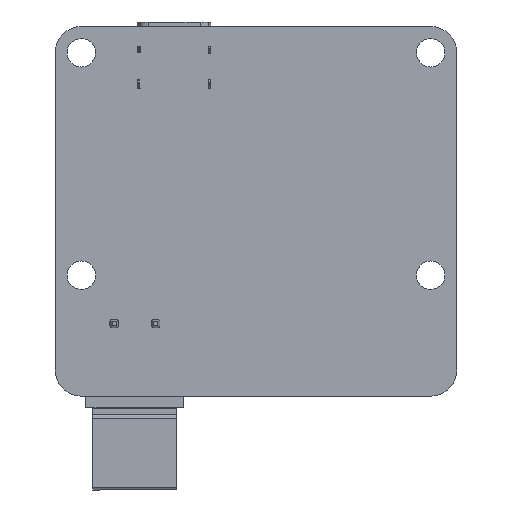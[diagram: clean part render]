
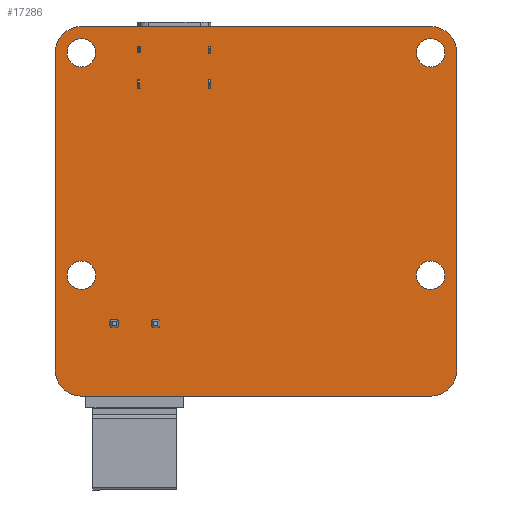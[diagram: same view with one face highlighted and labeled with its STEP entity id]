
A CAD part, front view. The second image highlights one B-rep face of the part: STEP entity #17286.
In plain terms, the highlighted planar face has unit normal (0, -1, 0).
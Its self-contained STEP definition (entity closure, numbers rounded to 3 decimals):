
#582=FACE_BOUND('',#3087,.T.);
#583=FACE_BOUND('',#3088,.T.);
#584=FACE_BOUND('',#3089,.T.);
#585=FACE_BOUND('',#3090,.T.);
#1232=PLANE('',#18767);
#2128=FACE_OUTER_BOUND('',#3086,.T.);
#3086=EDGE_LOOP('',(#16167,#16168,#16169,#16170,#16171,#16172,#16173,#16174));
#3087=EDGE_LOOP('',(#16175));
#3088=EDGE_LOOP('',(#16176));
#3089=EDGE_LOOP('',(#16177));
#3090=EDGE_LOOP('',(#16178));
#4958=LINE('',#28691,#6841);
#4963=LINE('',#28705,#6846);
#4967=LINE('',#28717,#6850);
#4971=LINE('',#28729,#6854);
#6841=VECTOR('',#23466,10.);
#6846=VECTOR('',#23479,10.);
#6850=VECTOR('',#23491,10.);
#6854=VECTOR('',#23503,10.);
#7335=CIRCLE('',#18743,1.74);
#7336=CIRCLE('',#18745,1.74);
#7337=CIRCLE('',#18747,1.74);
#7338=CIRCLE('',#18749,1.74);
#7339=CIRCLE('',#18752,3.2);
#7341=CIRCLE('',#18756,3.2);
#7343=CIRCLE('',#18760,3.2);
#7345=CIRCLE('',#18764,3.2);
#8908=VERTEX_POINT('',#28673);
#8909=VERTEX_POINT('',#28677);
#8910=VERTEX_POINT('',#28681);
#8911=VERTEX_POINT('',#28685);
#8912=VERTEX_POINT('',#28689);
#8913=VERTEX_POINT('',#28690);
#8916=VERTEX_POINT('',#28698);
#8918=VERTEX_POINT('',#28704);
#8920=VERTEX_POINT('',#28710);
#8922=VERTEX_POINT('',#28716);
#8924=VERTEX_POINT('',#28722);
#8926=VERTEX_POINT('',#28728);
#11314=EDGE_CURVE('',#8908,#8908,#7335,.T.);
#11316=EDGE_CURVE('',#8909,#8909,#7336,.T.);
#11318=EDGE_CURVE('',#8910,#8910,#7337,.T.);
#11320=EDGE_CURVE('',#8911,#8911,#7338,.T.);
#11321=EDGE_CURVE('',#8912,#8913,#4958,.T.);
#11325=EDGE_CURVE('',#8916,#8913,#7339,.T.);
#11328=EDGE_CURVE('',#8916,#8918,#4963,.T.);
#11331=EDGE_CURVE('',#8920,#8918,#7341,.T.);
#11334=EDGE_CURVE('',#8920,#8922,#4967,.T.);
#11337=EDGE_CURVE('',#8924,#8922,#7343,.T.);
#11340=EDGE_CURVE('',#8924,#8926,#4971,.T.);
#11343=EDGE_CURVE('',#8912,#8926,#7345,.T.);
#16167=ORIENTED_EDGE('',*,*,#11343,.F.);
#16168=ORIENTED_EDGE('',*,*,#11321,.T.);
#16169=ORIENTED_EDGE('',*,*,#11325,.F.);
#16170=ORIENTED_EDGE('',*,*,#11328,.T.);
#16171=ORIENTED_EDGE('',*,*,#11331,.F.);
#16172=ORIENTED_EDGE('',*,*,#11334,.T.);
#16173=ORIENTED_EDGE('',*,*,#11337,.F.);
#16174=ORIENTED_EDGE('',*,*,#11340,.T.);
#16175=ORIENTED_EDGE('',*,*,#11320,.F.);
#16176=ORIENTED_EDGE('',*,*,#11318,.F.);
#16177=ORIENTED_EDGE('',*,*,#11316,.F.);
#16178=ORIENTED_EDGE('',*,*,#11314,.F.);
#17286=ADVANCED_FACE('',(#2128,#582,#583,#584,#585),#1232,.F.);
#18743=AXIS2_PLACEMENT_3D('',#28675,#23447,#23448);
#18745=AXIS2_PLACEMENT_3D('',#28679,#23452,#23453);
#18747=AXIS2_PLACEMENT_3D('',#28683,#23457,#23458);
#18749=AXIS2_PLACEMENT_3D('',#28687,#23462,#23463);
#18752=AXIS2_PLACEMENT_3D('',#28699,#23472,#23473);
#18756=AXIS2_PLACEMENT_3D('',#28711,#23484,#23485);
#18760=AXIS2_PLACEMENT_3D('',#28723,#23496,#23497);
#18764=AXIS2_PLACEMENT_3D('',#28734,#23508,#23509);
#18767=AXIS2_PLACEMENT_3D('',#28737,#23514,#23515);
#23447=DIRECTION('center_axis',(0.,-1.,0.));
#23448=DIRECTION('ref_axis',(1.,0.,0.));
#23452=DIRECTION('center_axis',(0.,-1.,0.));
#23453=DIRECTION('ref_axis',(1.,0.,0.));
#23457=DIRECTION('center_axis',(0.,-1.,0.));
#23458=DIRECTION('ref_axis',(1.,0.,0.));
#23462=DIRECTION('center_axis',(0.,-1.,0.));
#23463=DIRECTION('ref_axis',(1.,0.,0.));
#23466=DIRECTION('',(0.,0.,1.));
#23472=DIRECTION('center_axis',(0.,1.,0.));
#23473=DIRECTION('ref_axis',(0.,0.,1.));
#23479=DIRECTION('',(-1.,0.,0.));
#23484=DIRECTION('center_axis',(0.,1.,0.));
#23485=DIRECTION('ref_axis',(-1.,0.,0.));
#23491=DIRECTION('',(0.,0.,-1.));
#23496=DIRECTION('center_axis',(0.,1.,0.));
#23497=DIRECTION('ref_axis',(0.,0.,-1.));
#23503=DIRECTION('',(1.,0.,0.));
#23508=DIRECTION('center_axis',(0.,1.,0.));
#23509=DIRECTION('ref_axis',(1.,0.,0.));
#23514=DIRECTION('center_axis',(0.,1.,0.));
#23515=DIRECTION('ref_axis',(1.,0.,0.));
#28673=CARTESIAN_POINT('',(-23.055,0.,-30.35));
#28675=CARTESIAN_POINT('Origin',(-21.315,0.,-30.35));
#28677=CARTESIAN_POINT('',(-23.055,0.,-3.2));
#28679=CARTESIAN_POINT('Origin',(-21.315,0.,-3.2));
#28681=CARTESIAN_POINT('',(19.575,0.,-30.35));
#28683=CARTESIAN_POINT('Origin',(21.315,0.,-30.35));
#28685=CARTESIAN_POINT('',(19.575,0.,-3.2));
#28687=CARTESIAN_POINT('Origin',(21.315,0.,-3.2));
#28689=CARTESIAN_POINT('',(24.515,0.,-41.91));
#28690=CARTESIAN_POINT('',(24.515,0.,-3.2));
#28691=CARTESIAN_POINT('',(24.515,0.,-41.91));
#28698=CARTESIAN_POINT('',(21.315,0.,0.));
#28699=CARTESIAN_POINT('Origin',(21.315,0.,-3.2));
#28704=CARTESIAN_POINT('',(-21.315,0.,0.));
#28705=CARTESIAN_POINT('',(21.315,0.,0.));
#28710=CARTESIAN_POINT('',(-24.515,0.,-3.2));
#28711=CARTESIAN_POINT('Origin',(-21.315,0.,-3.2));
#28716=CARTESIAN_POINT('',(-24.515,0.,-41.91));
#28717=CARTESIAN_POINT('',(-24.515,0.,-3.2));
#28722=CARTESIAN_POINT('',(-21.315,0.,-45.11));
#28723=CARTESIAN_POINT('Origin',(-21.315,0.,-41.91));
#28728=CARTESIAN_POINT('',(21.315,0.,-45.11));
#28729=CARTESIAN_POINT('',(-21.315,0.,-45.11));
#28734=CARTESIAN_POINT('Origin',(21.315,0.,-41.91));
#28737=CARTESIAN_POINT('Origin',(0.,0.,-22.555));
